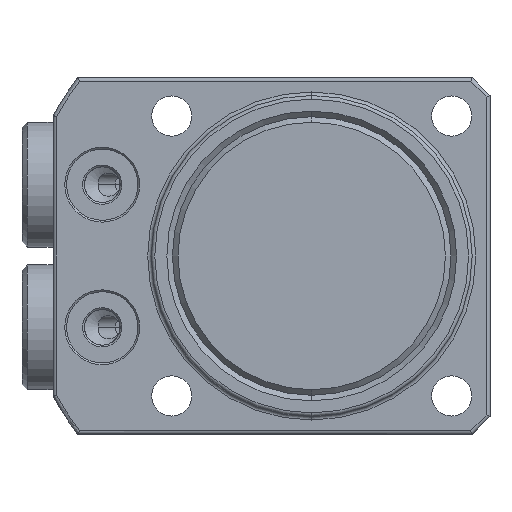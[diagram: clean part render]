
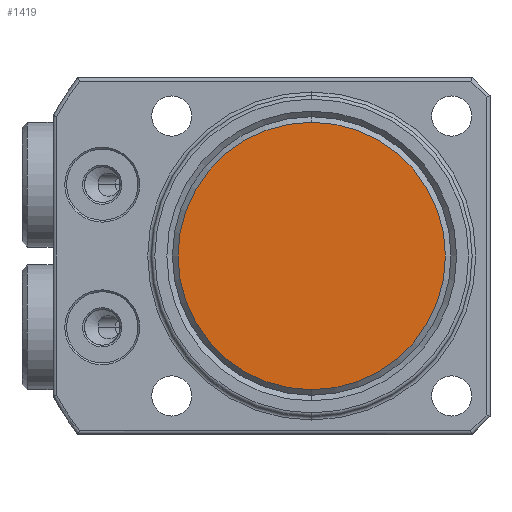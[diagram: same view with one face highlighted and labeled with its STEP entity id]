
A CAD part, front view. The second image highlights one B-rep face of the part: STEP entity #1419.
In plain terms, the highlighted planar face has unit normal (0, -1, 0) as drawn and (1, 0, 0) by its records, which use the part's own axes.
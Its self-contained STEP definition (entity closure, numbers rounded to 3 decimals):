
#781=PLANE('',#4344);
#1419=ADVANCED_FACE('',(#1648),#781,.T.);
#1648=FACE_OUTER_BOUND('',#1848,.T.);
#1848=EDGE_LOOP('',(#2427,#2428));
#2427=ORIENTED_EDGE('',*,*,#3562,.F.);
#2428=ORIENTED_EDGE('',*,*,#3681,.F.);
#3212=VERTEX_POINT('',#6105);
#3213=VERTEX_POINT('',#6106);
#3562=EDGE_CURVE('',#3212,#3213,#4013,.T.);
#3681=EDGE_CURVE('',#3213,#3212,#4059,.T.);
#4013=CIRCLE('',#4269,15.);
#4059=CIRCLE('',#4343,15.);
#4269=AXIS2_PLACEMENT_3D('',#6104,#4834,#4835);
#4343=AXIS2_PLACEMENT_3D('',#6676,#5034,#5035);
#4344=AXIS2_PLACEMENT_3D('',#6677,#5036,#5037);
#4834=DIRECTION('',(-1.,0.,0.));
#4835=DIRECTION('',(0.,0.,1.));
#5034=DIRECTION('',(-1.,0.,0.));
#5035=DIRECTION('',(0.,0.,1.));
#5036=DIRECTION('',(1.,0.,0.));
#5037=DIRECTION('',(0.,0.,1.));
#6104=CARTESIAN_POINT('',(39.5,0.,0.));
#6105=CARTESIAN_POINT('',(39.5,0.,15.));
#6106=CARTESIAN_POINT('',(39.5,0.,-15.));
#6676=CARTESIAN_POINT('',(39.5,0.,0.));
#6677=CARTESIAN_POINT('',(39.5,0.,0.));
